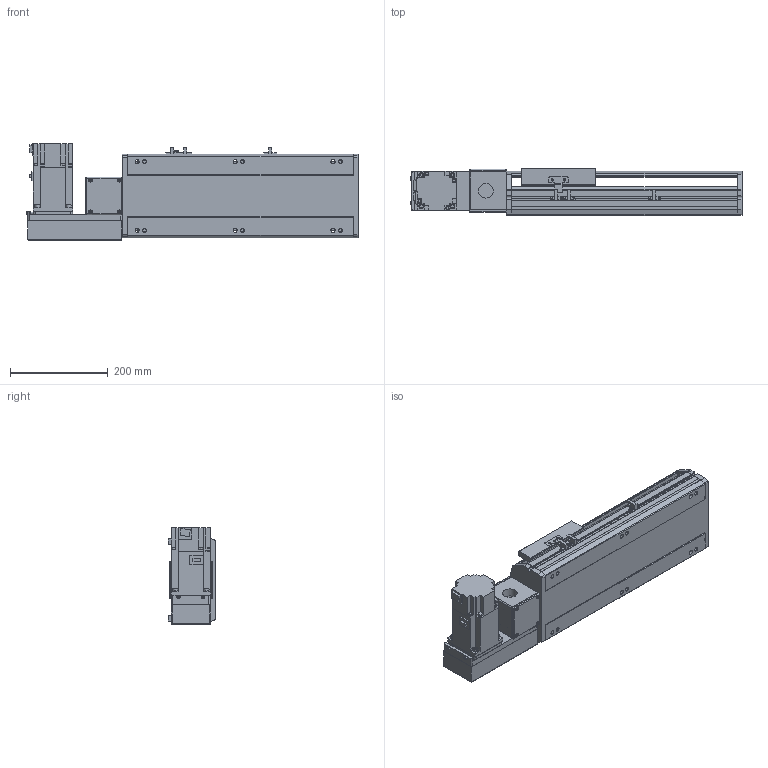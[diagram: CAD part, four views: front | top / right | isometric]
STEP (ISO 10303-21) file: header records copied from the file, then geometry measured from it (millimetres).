
FILE_DESCRIPTION( ( 'STEP AP214' ), '1' );
FILE_NAME( 'x:/temp/worker_3/temp/exporttempdir_5796_44_NODT2/format_0/PBS170-P40-S200-L-T75-C1-N(0).stp', '2022-06-07T06:33:38', ( 'License CC BY-ND 4.0' ), ( 'CADENAS' ), ' ', 'PARTsolutions', ' ' );
FILE_SCHEMA( ( 'AUTOMOTIVE_DESIGN { 1 0 10303 214 1 1 1 1 }' ) );
Length unit declared in the file: millimetre
Products named in the file (7): PBS170-P40-S200-L-T75-C1-N(0); _PBS170-S200()_body; _PBS170T-L_motors; _T75-p1; _PBS170_sliser; _PBS170_plant; _PBS170_sensor
Assembly tree (8 placements, depth 2):
  PBS170-P40-S200-L-T75-C1-N(0)
    _PBS170-S200()_body
    _PBS170T-L_motors
    _T75-p1
    _PBS170_sliser
    _PBS170_plant
    _PBS170_sensor  x3
Bounding box: 678 x 97 x 197.3 mm (x, y, z)
Volume: 5292426.1 mm3; surface area: 751561.9 mm2
Topology: 8 solids, 8 shells, 1002 faces, 2675 edges, 1744 vertices
Faces by surface type: plane 657, cylinder 299, cone 36, sphere 8, torus 2
Full cylindrical faces by diameter (mm): 3.242 x4, 4 x2, 4.4 x4, 4.5 x6, 4.917 x4, 6 x9, 6.647 x14, 7 x2, 7.5 x4, 8 x8, 8.5 x6, 10 x4, 10.5 x6, 11 x2, 30 x2, 40 x1, 70 x1
Entity records: 36530 total; most frequent: CARTESIAN_POINT 5381, DIRECTION 4950, ORIENTED_EDGE 4728, EDGE_CURVE 2364, AXIS2_PLACEMENT_3D 1687, VERTEX_POINT 1610, LINE 1576, VECTOR 1576
